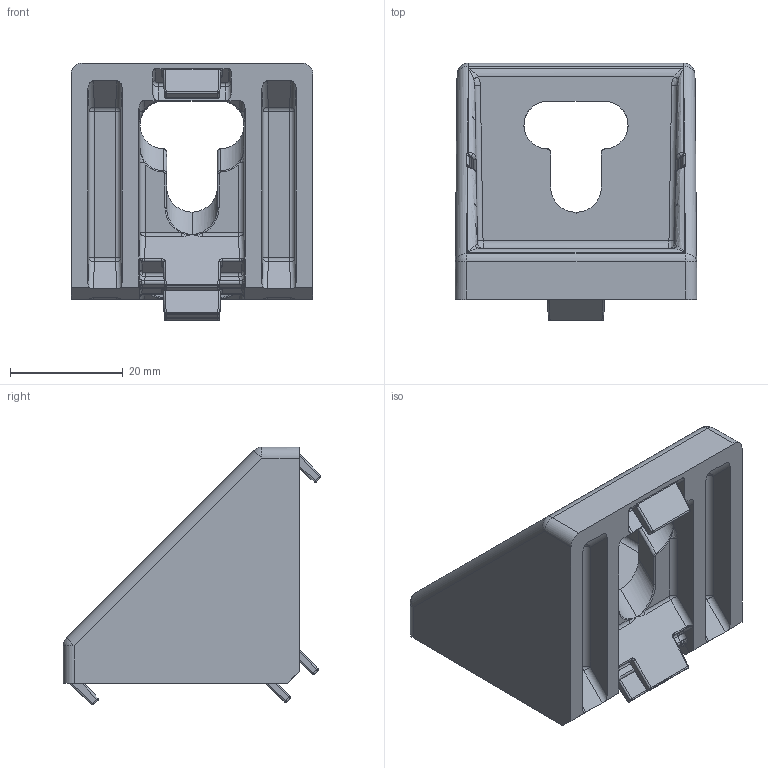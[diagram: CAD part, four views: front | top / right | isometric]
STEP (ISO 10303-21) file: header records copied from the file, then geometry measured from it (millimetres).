
FILE_DESCRIPTION(('STEP AP214'),'1');
FILE_NAME('C:/TPO v2/SharedFS/Outgoing/fath_093w422n10.stp','2016-07-21T07:49:37',('TraceParts'),('TraceParts S.A.'),'Spatial InterOp 3D',' ',' ');
FILE_SCHEMA(('automotive_design'));
Length unit declared in the file: millimetre
Products named in the file (1): Verrundung30
Bounding box: 43 x 45.84 x 45.84 mm (x, y, z)
Volume: 21094.2 mm3; surface area: 12012.7 mm2
Topology: 1 solids, 1 shells, 517 faces, 1281 edges, 718 vertices
Faces by surface type: cylinder 184, bspline 178, plane 99, sphere 52, torus 4
Entity records: 22122 total; most frequent: CARTESIAN_POINT 7517, ORIENTED_EDGE 2470, DIRECTION 1917, EDGE_CURVE 1235, AXIS2_PLACEMENT_3D 742, VERTEX_POINT 718, EDGE_LOOP 519, STYLED_ITEM 518
